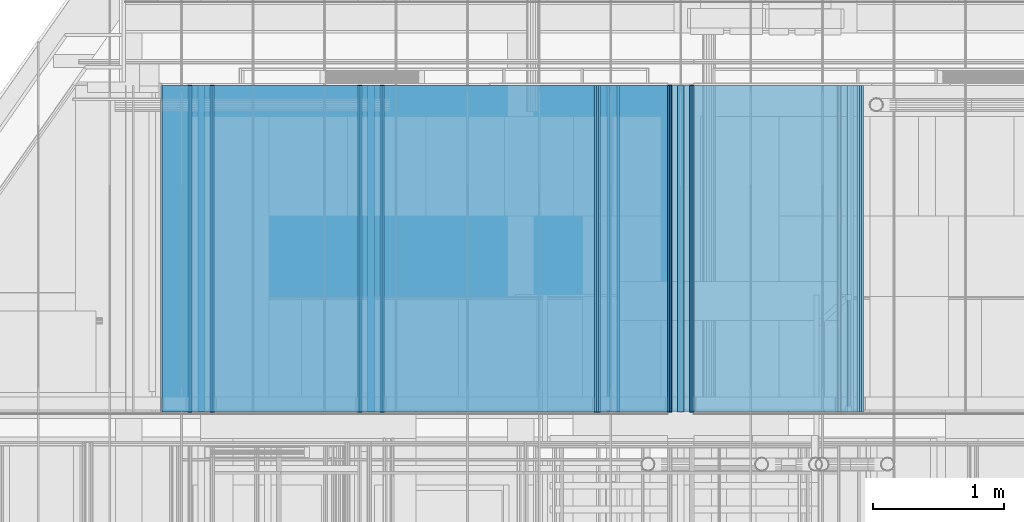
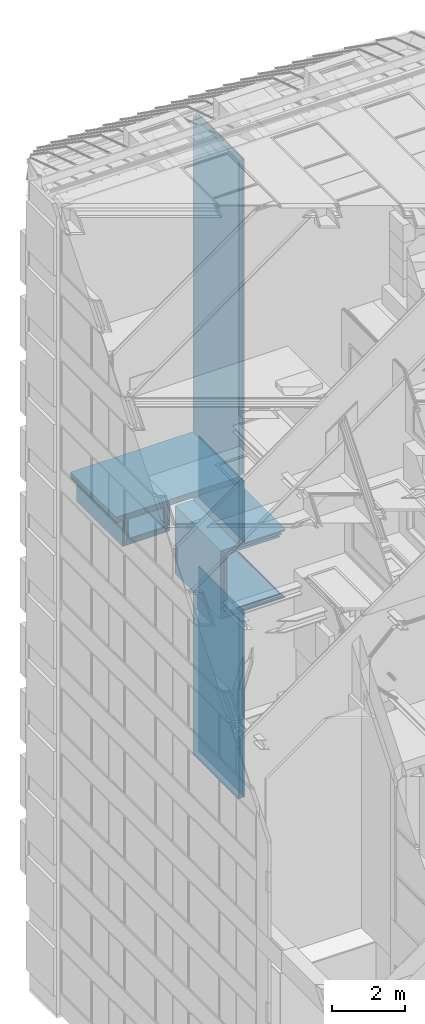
# One storey, part 155 of 583: 54 building element parts, 10 elements without a shape of their own.
"""IFC2X3 building model written with IfcOpenShell, lengths in metres."""

from ifc_helpers import new_model, entity, si_unit, converted_unit, derived_unit, money_unit, direction, frame, frame_2d, origin_with_axes, place, context, subcontext, project, spatial, polyline, rectangle, outline, extrude, material, type_object, element, aggregate, save


model = new_model("IFC2X3")

# Units and contexts
model_context = context("Model", 3, precision=1e-05, world=origin_with_axes(), true_north=direction((0.0, 1.0)))
body_context = subcontext(model_context, "Body", "Model", "MODEL_VIEW", scale=1.0)
ifc_project = project(units=[si_unit("LENGTHUNIT", "METRE"), si_unit("AREAUNIT", "SQUARE_METRE"), si_unit("VOLUMEUNIT", "CUBIC_METRE"), si_unit("ABSORBEDDOSEUNIT", "GRAY"), si_unit("AMOUNTOFSUBSTANCEUNIT", "MOLE"), si_unit("DOSEEQUIVALENTUNIT", "SIEVERT"), si_unit("ELECTRICCAPACITANCEUNIT", "FARAD"), si_unit("ELECTRICCHARGEUNIT", "COULOMB"), si_unit("ELECTRICCONDUCTANCEUNIT", "SIEMENS"), si_unit("ELECTRICCURRENTUNIT", "AMPERE"), si_unit("ELECTRICRESISTANCEUNIT", "OHM"), si_unit("ELECTRICVOLTAGEUNIT", "VOLT"), si_unit("ENERGYUNIT", "JOULE"), si_unit("FORCEUNIT", "NEWTON"), si_unit("FREQUENCYUNIT", "HERTZ"), si_unit("ILLUMINANCEUNIT", "LUX"), si_unit("INDUCTANCEUNIT", "HENRY"), si_unit("LUMINOUSFLUXUNIT", "LUMEN"), si_unit("LUMINOUSINTENSITYUNIT", "CANDELA"), si_unit("MAGNETICFLUXDENSITYUNIT", "TESLA"), si_unit("MAGNETICFLUXUNIT", "WEBER"), si_unit("MASSUNIT", "GRAM"), converted_unit("PLANEANGLEUNIT", "degree", entity("IfcReal", 0.0174532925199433), si_unit("PLANEANGLEUNIT", "RADIAN"), dimensions=[0, 0, 0, 0, 0, 0, 0]), si_unit("POWERUNIT", "WATT"), si_unit("PRESSUREUNIT", "PASCAL"), si_unit("RADIOACTIVITYUNIT", "BECQUEREL"), si_unit("SOLIDANGLEUNIT", "STERADIAN"), si_unit("THERMODYNAMICTEMPERATUREUNIT", "KELVIN"), si_unit("TIMEUNIT", "SECOND"), derived_unit("ACCELERATIONUNIT", [(si_unit("LENGTHUNIT", "METRE"), 1), (si_unit("TIMEUNIT", "SECOND"), -2)]), derived_unit("ANGULARVELOCITYUNIT", [(converted_unit("PLANEANGLEUNIT", "degree", entity("IfcReal", 0.0174532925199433), si_unit("PLANEANGLEUNIT", "RADIAN"), dimensions=[0, 0, 0, 0, 0, 0, 0]), 1), (si_unit("TIMEUNIT", "SECOND"), -1)]), derived_unit("CURVATUREUNIT", [(converted_unit("PLANEANGLEUNIT", "degree", entity("IfcReal", 0.0174532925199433), si_unit("PLANEANGLEUNIT", "RADIAN"), dimensions=[0, 0, 0, 0, 0, 0, 0]), 1), (si_unit("LENGTHUNIT", "METRE"), -1)]), derived_unit("DYNAMICVISCOSITYUNIT", [(si_unit("PRESSUREUNIT", "PASCAL"), 1), (si_unit("TIMEUNIT", "SECOND"), 1)]), derived_unit("HEATFLUXDENSITYUNIT", [(si_unit("POWERUNIT", "WATT"), 1), (si_unit("LENGTHUNIT", "METRE"), -2)]), derived_unit("HEATINGVALUEUNIT", [(si_unit("ENERGYUNIT", "JOULE"), 1), (si_unit("MASSUNIT", "GRAM"), -1)]), derived_unit("INTEGERCOUNTRATEUNIT", [(si_unit("TIMEUNIT", "SECOND"), -1)]), derived_unit("IONCONCENTRATIONUNIT", [(si_unit("MASSUNIT", "GRAM"), 1), (si_unit("VOLUMEUNIT", "CUBIC_METRE"), -1)]), derived_unit("ISOTHERMALMOISTURECAPACITYUNIT", [(si_unit("VOLUMEUNIT", "CUBIC_METRE"), 1), (si_unit("MASSUNIT", "GRAM"), -1)]), derived_unit("KINEMATICVISCOSITYUNIT", [(si_unit("AREAUNIT", "SQUARE_METRE"), 1), (si_unit("TIMEUNIT", "SECOND"), -1)]), derived_unit("LINEARFORCEUNIT", [(si_unit("FORCEUNIT", "NEWTON"), 1), (si_unit("LENGTHUNIT", "METRE"), -1)]), derived_unit("LINEARMOMENTUNIT", [(si_unit("FORCEUNIT", "NEWTON"), 1), (si_unit("LENGTHUNIT", "METRE"), -1)]), derived_unit("LINEARSTIFFNESSUNIT", [(si_unit("FORCEUNIT", "NEWTON"), 1), (si_unit("LENGTHUNIT", "METRE"), -1)]), derived_unit("LINEARVELOCITYUNIT", [(si_unit("LENGTHUNIT", "METRE"), 1), (si_unit("TIMEUNIT", "SECOND"), -1)]), derived_unit("LUMINOUSINTENSITYDISTRIBUTIONUNIT", [(si_unit("LUMINOUSINTENSITYUNIT", "CANDELA"), 1), (si_unit("LUMINOUSFLUXUNIT", "LUMEN"), -1)]), derived_unit("MASSDENSITYUNIT", [(si_unit("MASSUNIT", "GRAM"), 1), (si_unit("VOLUMEUNIT", "CUBIC_METRE"), -1)]), derived_unit("MASSFLOWRATEUNIT", [(si_unit("MASSUNIT", "GRAM"), 1), (si_unit("TIMEUNIT", "SECOND"), -1)]), derived_unit("MASSPERLENGTHUNIT", [(si_unit("MASSUNIT", "GRAM"), 1), (si_unit("LENGTHUNIT", "METRE"), -1)]), derived_unit("MODULUSOFELASTICITYUNIT", [(si_unit("FORCEUNIT", "NEWTON"), 1), (si_unit("AREAUNIT", "SQUARE_METRE"), -1)]), derived_unit("MODULUSOFLINEARSUBGRADEREACTIONUNIT", [(si_unit("FORCEUNIT", "NEWTON"), 1), (si_unit("LENGTHUNIT", "METRE"), -2)]), derived_unit("MODULUSOFROTATIONALSUBGRADEREACTIONUNIT", [(si_unit("FORCEUNIT", "NEWTON"), 1), (si_unit("LENGTHUNIT", "METRE"), 1)]), derived_unit("MODULUSOFSUBGRADEREACTIONUNIT", [(si_unit("FORCEUNIT", "NEWTON"), 1), (si_unit("VOLUMEUNIT", "CUBIC_METRE"), -1)]), derived_unit("MOISTUREDIFFUSIVITYUNIT", [(si_unit("VOLUMEUNIT", "CUBIC_METRE"), 1), (si_unit("TIMEUNIT", "SECOND"), -1)]), derived_unit("MOLECULARWEIGHTUNIT", [(si_unit("MASSUNIT", "GRAM"), 1), (si_unit("AMOUNTOFSUBSTANCEUNIT", "MOLE"), -1)]), derived_unit("PLANARFORCEUNIT", [(si_unit("FORCEUNIT", "NEWTON"), 1), (si_unit("LENGTHUNIT", "METRE"), -2)]), derived_unit("ROTATIONALFREQUENCYUNIT", [(si_unit("TIMEUNIT", "SECOND"), -1)]), derived_unit("ROTATIONALMASSUNIT", [(si_unit("MASSUNIT", "GRAM"), 1), (si_unit("LENGTHUNIT", "METRE"), 2)]), derived_unit("ROTATIONALSTIFFNESSUNIT", [(si_unit("FORCEUNIT", "NEWTON"), 1), (si_unit("LENGTHUNIT", "METRE"), 1), (converted_unit("PLANEANGLEUNIT", "degree", entity("IfcReal", 0.0174532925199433), si_unit("PLANEANGLEUNIT", "RADIAN"), dimensions=[0, 0, 0, 0, 0, 0, 0]), -1)]), derived_unit("SECTIONAREAINTEGRALUNIT", [(si_unit("LENGTHUNIT", "METRE"), 5)]), derived_unit("SECTIONMODULUSUNIT", [(si_unit("LENGTHUNIT", "METRE"), 3)]), derived_unit("SHEARMODULUSUNIT", [(si_unit("FORCEUNIT", "NEWTON"), 1), (si_unit("AREAUNIT", "SQUARE_METRE"), -1)]), derived_unit("SOUNDPOWERUNIT", [(si_unit("ENERGYUNIT", "JOULE"), 1), (si_unit("TIMEUNIT", "SECOND"), -1)]), derived_unit("SPECIFICHEATCAPACITYUNIT", [(si_unit("FORCEUNIT", "NEWTON"), 1), (si_unit("MASSUNIT", "GRAM"), -1), (si_unit("THERMODYNAMICTEMPERATUREUNIT", "KELVIN"), -1)]), derived_unit("TEMPERATUREGRADIENTUNIT", [(si_unit("THERMODYNAMICTEMPERATUREUNIT", "KELVIN"), 1), (si_unit("LENGTHUNIT", "METRE"), -1)]), derived_unit("THERMALADMITTANCEUNIT", [(si_unit("POWERUNIT", "WATT"), 1), (si_unit("AREAUNIT", "SQUARE_METRE"), -1), (si_unit("THERMODYNAMICTEMPERATUREUNIT", "KELVIN"), -1)]), derived_unit("THERMALCONDUCTANCEUNIT", [(si_unit("POWERUNIT", "WATT"), 1), (si_unit("LENGTHUNIT", "METRE"), -1), (si_unit("THERMODYNAMICTEMPERATUREUNIT", "KELVIN"), -1)]), derived_unit("THERMALEXPANSIONCOEFFICIENTUNIT", [(si_unit("THERMODYNAMICTEMPERATUREUNIT", "KELVIN"), -1)]), derived_unit("THERMALRESISTANCEUNIT", [(si_unit("AREAUNIT", "SQUARE_METRE"), 1), (si_unit("POWERUNIT", "WATT"), -1)]), derived_unit("THERMALTRANSMITTANCEUNIT", [(si_unit("POWERUNIT", "WATT"), 1), (si_unit("AREAUNIT", "SQUARE_METRE"), -1), (si_unit("THERMODYNAMICTEMPERATUREUNIT", "KELVIN"), -1)]), derived_unit("TORQUEUNIT", [(si_unit("FORCEUNIT", "NEWTON"), 1), (si_unit("LENGTHUNIT", "METRE"), 1)]), derived_unit("VAPORPERMEABILITYUNIT", [(si_unit("MASSUNIT", "GRAM"), 1), (si_unit("TIMEUNIT", "SECOND"), -1)]), derived_unit("VOLUMETRICFLOWRATEUNIT", [(si_unit("VOLUMEUNIT", "CUBIC_METRE"), 1), (si_unit("TIMEUNIT", "SECOND"), -1)]), derived_unit("WARPINGCONSTANTUNIT", [(si_unit("LENGTHUNIT", "METRE"), 6)]), derived_unit("WARPINGMOMENTUNIT", [(si_unit("FORCEUNIT", "NEWTON"), 1), (si_unit("LENGTHUNIT", "METRE"), 2)]), money_unit("GBP")], contexts=[model_context])

# Site, building, storey
site_placement = place(None, origin_with_axes())
site = spatial("IfcSite", under=ifc_project, at=site_placement, Name="Site", CompositionType="ELEMENT")
building_placement = place(site_placement, origin_with_axes())
building = spatial("IfcBuilding", under=site, at=building_placement, Name="Building01", CompositionType="ELEMENT")
storey_placement = place(building_placement, frame((0.0, 0.0, 20.78), z_axis=(0.0, 0.0, 1.0), x_axis=(1.0, 0.0, 0.0)))
storey = spatial("IfcBuildingStorey", under=building, at=storey_placement, Name="RL", CompositionType="ELEMENT", Elevation=20.78)

# Wall, building element parts
wall_type_1 = type_object("IfcWallType", Name="SHE_A-Walls_Type01d_Partywall_200mm_twin", PredefinedType="NOTDEFINED")
wall_1_placement = place(storey_placement, frame((5.105, 17.68, -8.155), z_axis=(0.0, 1.0, 0.0), x_axis=(-1.0, 0.0, 0.0)))
wall_1 = element("IfcWall", 1, at=wall_1_placement, inside=storey, type_object=wall_type_1, Name="1D", ObjectType="SHE_A-Walls_Type01d_Partywall_200mm_twin")
ifc_material_1 = material(Name="A_BSUK_Insulation")
placement_1 = place(wall_1_placement, origin_with_axes())
building_element_part_1 = element("IfcBuildingElementPart", 2, at=placement_1, material=ifc_material_1, Name="1", context=body_context, shape_type="SweptSolid", body=[
    extrude(outline(polyline([(1.3, 0.05), (0.05, 0.05), (0.0, 0.0), (1.35, 0.0), (1.3, 0.05)])), origin_with_axes(), (0.0, 0.0, 1.0), 2.5),
])
ifc_material_2 = material(Name="A_BSUK_WallInternal_Finishes_Plasterboard")
building_element_part_2 = element("IfcBuildingElementPart", 3, at=placement_1, material=ifc_material_2, Name="3", context=body_context, shape_type="SweptSolid", body=[
    extrude(outline(polyline([(1.225, 0.125), (0.125, 0.125), (0.11, 0.11), (1.24, 0.11), (1.225, 0.125)])), origin_with_axes(), (0.0, 0.0, 1.0), 2.5),
])
building_element_part_3 = element("IfcBuildingElementPart", 4, at=placement_1, material=ifc_material_2, Name="4", context=body_context, shape_type="SweptSolid", body=[
    extrude(outline(polyline([(1.24, 0.11), (0.11, 0.11), (0.095, 0.095), (1.255, 0.095), (1.24, 0.11)])), origin_with_axes(), (0.0, 0.0, 1.0), 2.5),
])
building_element_part_4 = element("IfcBuildingElementPart", 5, at=placement_1, material=ifc_material_2, Name="5", context=body_context, shape_type="SweptSolid", body=[
    extrude(outline(polyline([(1.395, -0.045), (-0.045, -0.045), (-0.06, -0.06), (1.41, -0.06), (1.395, -0.045)])), origin_with_axes(), (0.0, 0.0, 1.0), 2.5),
])
building_element_part_5 = element("IfcBuildingElementPart", 6, at=placement_1, material=ifc_material_2, Name="6", context=body_context, shape_type="SweptSolid", body=[
    extrude(outline(polyline([(1.41, -0.06), (-0.06, -0.06), (-0.075, -0.075), (1.425, -0.075), (1.41, -0.06)])), origin_with_axes(), (0.0, 0.0, 1.0), 2.5),
])
aggregate(wall_1, [building_element_part_1, building_element_part_2, building_element_part_3, building_element_part_4, building_element_part_5])

wall_2_placement = place(storey_placement, frame((7.424939, 17.68, -7.18), z_axis=(0.0, 1.0, 0.0), x_axis=(0.0, 0.0, 1.0)))
wall_2 = element("IfcWall", 7, at=wall_2_placement, inside=storey, type_object=wall_type_1, Name="1D", ObjectType="SHE_A-Walls_Type01d_Partywall_200mm_twin")
placement_2 = place(wall_2_placement, origin_with_axes())
building_element_part_6 = element("IfcBuildingElementPart", 8, at=placement_2, material=ifc_material_1, Name="1", context=body_context, shape_type="SweptSolid", body=[
    extrude(rectangle(XDim=0.05, YDim=10.561396, at=frame_2d((5.280698, 0.025), x_axis=(0.0, -1.0))), origin_with_axes(), (0.0, 0.0, 1.0), 2.5),
])
building_element_part_7 = element("IfcBuildingElementPart", 9, at=placement_2, material=ifc_material_2, Name="3", context=body_context, shape_type="SweptSolid", body=[
    extrude(rectangle(XDim=10.561396, YDim=0.015, at=frame_2d((5.280698, 0.1175), x_axis=(1.0, 0.0))), origin_with_axes(), (0.0, 0.0, 1.0), 2.5),
])
building_element_part_8 = element("IfcBuildingElementPart", 10, at=placement_2, material=ifc_material_2, Name="4", context=body_context, shape_type="SweptSolid", body=[
    extrude(rectangle(XDim=10.561396, YDim=0.015, at=frame_2d((5.280698, 0.1025), x_axis=(1.0, 0.0))), origin_with_axes(), (0.0, 0.0, 1.0), 2.5),
])
building_element_part_9 = element("IfcBuildingElementPart", 11, at=placement_2, material=ifc_material_2, Name="5", context=body_context, shape_type="SweptSolid", body=[
    extrude(rectangle(XDim=10.561396, YDim=0.015, at=frame_2d((5.280698, -0.0525), x_axis=(1.0, 0.0))), origin_with_axes(), (0.0, 0.0, 1.0), 2.5),
])
building_element_part_10 = element("IfcBuildingElementPart", 12, at=placement_2, material=ifc_material_2, Name="6", context=body_context, shape_type="SweptSolid", body=[
    extrude(rectangle(XDim=10.561396, YDim=0.015, at=frame_2d((5.280698, -0.0675), x_axis=(1.0, 0.0))), origin_with_axes(), (0.0, 0.0, 1.0), 2.5),
])
aggregate(wall_2, [building_element_part_6, building_element_part_7, building_element_part_8, building_element_part_9, building_element_part_10])

wall_3_placement = place(storey_placement, frame((5.105, 17.68, -7.305), z_axis=(0.0, 1.0, 0.0), x_axis=(0.0, 0.0, -1.0)))
wall_3 = element("IfcWall", 13, at=wall_3_placement, inside=storey, type_object=wall_type_1, Name="1D", ObjectType="SHE_A-Walls_Type01d_Partywall_200mm_twin")
placement_3 = place(wall_3_placement, origin_with_axes())
building_element_part_11 = element("IfcBuildingElementPart", 14, at=placement_3, material=ifc_material_1, Name="1", context=body_context, shape_type="SweptSolid", body=[
    extrude(outline(polyline([(0.8, 0.05), (0.0, 0.05), (0.0, 0.0), (0.85, 0.0), (0.8, 0.05)])), origin_with_axes(), (0.0, 0.0, 1.0), 2.5),
])
building_element_part_12 = element("IfcBuildingElementPart", 15, at=placement_3, material=ifc_material_2, Name="3", context=body_context, shape_type="SweptSolid", body=[
    extrude(outline(polyline([(0.725, 0.125), (0.075, 0.125), (0.075, 0.11), (0.74, 0.11), (0.725, 0.125)])), origin_with_axes(), (0.0, 0.0, 1.0), 2.5),
])
building_element_part_13 = element("IfcBuildingElementPart", 16, at=placement_3, material=ifc_material_2, Name="4", context=body_context, shape_type="SweptSolid", body=[
    extrude(outline(polyline([(0.74, 0.11), (0.045, 0.11), (0.045, 0.095), (0.755, 0.095), (0.74, 0.11)])), origin_with_axes(), (0.0, 0.0, 1.0), 2.5),
])
building_element_part_14 = element("IfcBuildingElementPart", 17, at=placement_3, material=ifc_material_2, Name="5", context=body_context, shape_type="SweptSolid", body=[
    extrude(outline(polyline([(0.895, -0.045), (0.045, -0.045), (0.045, -0.06), (0.91, -0.06), (0.895, -0.045)])), origin_with_axes(), (0.0, 0.0, 1.0), 2.5),
])
building_element_part_15 = element("IfcBuildingElementPart", 18, at=placement_3, material=ifc_material_2, Name="6", context=body_context, shape_type="SweptSolid", body=[
    extrude(outline(polyline([(0.91, -0.06), (0.075, -0.06), (0.075, -0.075), (0.925, -0.075), (0.91, -0.06)])), origin_with_axes(), (0.0, 0.0, 1.0), 2.5),
])
aggregate(wall_3, [building_element_part_11, building_element_part_12, building_element_part_13, building_element_part_14, building_element_part_15])

wall_4_placement = place(storey_placement, frame((3.755, 17.68, -8.155), z_axis=(0.0, 1.0, 0.0), x_axis=(0.0, 0.0, 1.0)))
wall_4 = element("IfcWall", 19, at=wall_4_placement, inside=storey, type_object=wall_type_1, Name="1D", ObjectType="SHE_A-Walls_Type01d_Partywall_200mm_twin")
placement_4 = place(wall_4_placement, origin_with_axes())
building_element_part_16 = element("IfcBuildingElementPart", 20, at=placement_4, material=ifc_material_1, Name="1", context=body_context, shape_type="SweptSolid", body=[
    extrude(outline(polyline([(0.85, 0.05), (0.05, 0.05), (0.0, 0.0), (0.85, 0.0), (0.85, 0.05)])), origin_with_axes(), (0.0, 0.0, 1.0), 2.5),
])
building_element_part_17 = element("IfcBuildingElementPart", 21, at=placement_4, material=ifc_material_2, Name="3", context=body_context, shape_type="SweptSolid", body=[
    extrude(outline(polyline([(0.775, 0.125), (0.125, 0.125), (0.11, 0.11), (0.775, 0.11), (0.775, 0.125)])), origin_with_axes(), (0.0, 0.0, 1.0), 2.5),
])
building_element_part_18 = element("IfcBuildingElementPart", 22, at=placement_4, material=ifc_material_2, Name="4", context=body_context, shape_type="SweptSolid", body=[
    extrude(outline(polyline([(0.79, 0.11), (0.11, 0.11), (0.095, 0.095), (0.79, 0.095), (0.79, 0.11)])), origin_with_axes(), (0.0, 0.0, 1.0), 2.5),
])
building_element_part_19 = element("IfcBuildingElementPart", 23, at=placement_4, material=ifc_material_2, Name="5", context=body_context, shape_type="SweptSolid", body=[
    extrude(outline(polyline([(0.79, -0.045), (-0.045, -0.045), (-0.06, -0.06), (0.79, -0.06), (0.79, -0.045)])), origin_with_axes(), (0.0, 0.0, 1.0), 2.5),
])
building_element_part_20 = element("IfcBuildingElementPart", 24, at=placement_4, material=ifc_material_2, Name="6", context=body_context, shape_type="SweptSolid", body=[
    extrude(outline(polyline([(0.775, -0.06), (-0.06, -0.06), (-0.075, -0.075), (0.775, -0.075), (0.775, -0.06)])), origin_with_axes(), (0.0, 0.0, 1.0), 2.5),
])
aggregate(wall_4, [building_element_part_16, building_element_part_17, building_element_part_18, building_element_part_19, building_element_part_20])

wall_type_2 = type_object("IfcWallType", Name="SHE_A-Walls_Type03b_Firewall_200mm_twin", PredefinedType="NOTDEFINED")
wall_5_placement = place(storey_placement, frame((7.474939, 17.68, -7.305), z_axis=(0.0, 1.0, 0.0), x_axis=(0.0, 0.0, -1.0)))
wall_5 = element("IfcWall", 25, at=wall_5_placement, inside=storey, type_object=wall_type_2, Name="3B", ObjectType="SHE_A-Walls_Type03b_Firewall_200mm_twin")
placement_5 = place(wall_5_placement, origin_with_axes())
building_element_part_21 = element("IfcBuildingElementPart", 26, at=placement_5, material=ifc_material_1, Name="1", context=body_context, shape_type="SweptSolid", body=[
    extrude(rectangle(XDim=2.152, YDim=0.05, at=frame_2d((1.076, 0.025), x_axis=(-1.0, 0.0))), origin_with_axes(), (0.0, 0.0, 1.0), 2.5),
])
building_element_part_22 = element("IfcBuildingElementPart", 27, at=placement_5, material=ifc_material_2, Name="3", context=body_context, shape_type="SweptSolid", body=[
    extrude(rectangle(XDim=2.262, YDim=0.015, at=frame_2d((1.021, 0.1175), x_axis=(-1.0, 0.0))), origin_with_axes(), (0.0, 0.0, 1.0), 2.5),
])
building_element_part_23 = element("IfcBuildingElementPart", 28, at=placement_5, material=ifc_material_2, Name="4", context=body_context, shape_type="SweptSolid", body=[
    extrude(rectangle(XDim=2.247, YDim=0.015, at=frame_2d((1.0285, 0.1025), x_axis=(-1.0, 0.0))), origin_with_axes(), (0.0, 0.0, 1.0), 2.5),
])
building_element_part_24 = element("IfcBuildingElementPart", 29, at=placement_5, material=ifc_material_2, Name="5", context=body_context, shape_type="SweptSolid", body=[
    extrude(rectangle(XDim=2.092, YDim=0.015, at=frame_2d((1.106, -0.0525), x_axis=(-1.0, 0.0))), origin_with_axes(), (0.0, 0.0, 1.0), 2.5),
])
building_element_part_25 = element("IfcBuildingElementPart", 30, at=placement_5, material=ifc_material_2, Name="6", context=body_context, shape_type="SweptSolid", body=[
    extrude(rectangle(XDim=2.077, YDim=0.015, at=frame_2d((1.1135, -0.0675), x_axis=(-1.0, 0.0))), origin_with_axes(), (0.0, 0.0, 1.0), 2.5),
])
aggregate(wall_5, [building_element_part_21, building_element_part_22, building_element_part_23, building_element_part_24, building_element_part_25])

wall_6_placement = place(storey_placement, frame((7.475, 17.68, -11.743), z_axis=(0.0, 1.0, 0.0), x_axis=(0.0, 0.0, -1.0)))
wall_6 = element("IfcWall", 31, at=wall_6_placement, inside=storey, type_object=wall_type_1, Name="1D", ObjectType="SHE_A-Walls_Type01d_Partywall_200mm_twin")
placement_6 = place(wall_6_placement, origin_with_axes())
building_element_part_26 = element("IfcBuildingElementPart", 32, at=placement_6, material=ifc_material_1, Name="1", context=body_context, shape_type="SweptSolid", body=[
    extrude(rectangle(XDim=0.05, YDim=6.218396, at=frame_2d((3.109198, 0.025), x_axis=(0.0, -1.0))), origin_with_axes(), (0.0, 0.0, 1.0), 2.5),
])
building_element_part_27 = element("IfcBuildingElementPart", 33, at=placement_6, material=ifc_material_2, Name="3", context=body_context, shape_type="SweptSolid", body=[
    extrude(rectangle(XDim=0.015, YDim=6.218396, at=frame_2d((3.109198, 0.1175), x_axis=(0.0, -1.0))), origin_with_axes(), (0.0, 0.0, 1.0), 2.5),
])
building_element_part_28 = element("IfcBuildingElementPart", 34, at=placement_6, material=ifc_material_2, Name="4", context=body_context, shape_type="SweptSolid", body=[
    extrude(rectangle(XDim=0.015, YDim=6.218396, at=frame_2d((3.109198, 0.1025), x_axis=(0.0, -1.0))), origin_with_axes(), (0.0, 0.0, 1.0), 2.5),
])
building_element_part_29 = element("IfcBuildingElementPart", 35, at=placement_6, material=ifc_material_2, Name="5", context=body_context, shape_type="SweptSolid", body=[
    extrude(rectangle(XDim=0.015, YDim=6.218396, at=frame_2d((3.109198, -0.0525), x_axis=(0.0, -1.0))), origin_with_axes(), (0.0, 0.0, 1.0), 2.5),
])
building_element_part_30 = element("IfcBuildingElementPart", 36, at=placement_6, material=ifc_material_2, Name="6", context=body_context, shape_type="SweptSolid", body=[
    extrude(rectangle(XDim=0.015, YDim=6.218396, at=frame_2d((3.109198, -0.0675), x_axis=(0.0, -1.0))), origin_with_axes(), (0.0, 0.0, 1.0), 2.5),
])
aggregate(wall_6, [building_element_part_26, building_element_part_27, building_element_part_28, building_element_part_29, building_element_part_30])

wall_7_placement = place(storey_placement, frame((7.349939, 17.68, -7.305), z_axis=(0.0, 1.0, 0.0), x_axis=(-1.0, 0.0, 0.0)))
wall_7 = element("IfcWall", 37, at=wall_7_placement, inside=storey, type_object=wall_type_1, Name="1D", ObjectType="SHE_A-Walls_Type01d_Partywall_200mm_twin")
placement_7 = place(wall_7_placement, origin_with_axes())
building_element_part_31 = element("IfcBuildingElementPart", 38, at=placement_7, material=ifc_material_1, Name="1", context=body_context, shape_type="SweptSolid", body=[
    extrude(rectangle(XDim=3.88, YDim=0.05, at=frame_2d((1.94, 0.025), x_axis=(-1.0, 0.0))), origin_with_axes(), (0.0, 0.0, 1.0), 2.5),
])
building_element_part_32 = element("IfcBuildingElementPart", 39, at=placement_7, material=ifc_material_2, Name="3", context=body_context, shape_type="SweptSolid", body=[
    extrude(rectangle(XDim=3.87, YDim=0.015, at=frame_2d((1.935, 0.1175), x_axis=(-1.0, 0.0))), origin_with_axes(), (0.0, 0.0, 1.0), 2.5),
])
building_element_part_33 = element("IfcBuildingElementPart", 40, at=placement_7, material=ifc_material_2, Name="4", context=body_context, shape_type="SweptSolid", body=[
    extrude(rectangle(XDim=3.87, YDim=0.015, at=frame_2d((1.935, 0.1025), x_axis=(-1.0, 0.0))), origin_with_axes(), (0.0, 0.0, 1.0), 2.5),
])
building_element_part_34 = element("IfcBuildingElementPart", 41, at=placement_7, material=ifc_material_2, Name="5", context=body_context, shape_type="SweptSolid", body=[
    extrude(rectangle(XDim=2.184939, YDim=0.015, at=frame_2d((1.09247, -0.0525), x_axis=(-1.0, 0.0))), origin_with_axes(), (0.0, 0.0, 1.0), 2.5),
])
building_element_part_35 = element("IfcBuildingElementPart", 42, at=placement_7, material=ifc_material_2, Name="6", context=body_context, shape_type="SweptSolid", body=[
    extrude(rectangle(XDim=2.184939, YDim=0.015, at=frame_2d((1.09247, -0.0675), x_axis=(-1.0, 0.0))), origin_with_axes(), (0.0, 0.0, 1.0), 2.5),
])
building_element_part_36 = element("IfcBuildingElementPart", 43, at=placement_7, material=ifc_material_2, Name="9", context=body_context, shape_type="SweptSolid", body=[
    extrude(rectangle(XDim=0.215061, YDim=0.015, at=frame_2d((3.76247, -0.0675), x_axis=(-1.0, 0.0))), origin_with_axes(), (0.0, 0.0, 1.0), 2.5),
])
building_element_part_37 = element("IfcBuildingElementPart", 44, at=placement_7, material=ifc_material_2, Name="10", context=body_context, shape_type="SweptSolid", body=[
    extrude(rectangle(XDim=0.230061, YDim=0.015, at=frame_2d((3.75497, -0.0525), x_axis=(-1.0, 0.0))), origin_with_axes(), (0.0, 0.0, 1.0), 2.5),
])
building_element_part_38 = element("IfcBuildingElementPart", 45, at=placement_7, material=ifc_material_2, Name="12", context=body_context, shape_type="SweptSolid", body=[
    extrude(rectangle(XDim=1.13, YDim=0.015, at=frame_2d((2.919939, -0.0675), x_axis=(-1.0, 0.0))), origin_with_axes(), (0.0, 0.0, 1.0), 2.5),
])
building_element_part_39 = element("IfcBuildingElementPart", 46, at=placement_7, material=ifc_material_2, Name="13", context=body_context, shape_type="SweptSolid", body=[
    extrude(rectangle(XDim=1.145, YDim=0.015, at=frame_2d((2.927439, -0.0525), x_axis=(-1.0, 0.0))), origin_with_axes(), (0.0, 0.0, 1.0), 2.5),
])
aggregate(wall_7, [building_element_part_31, building_element_part_32, building_element_part_33, building_element_part_34, building_element_part_35, building_element_part_36, building_element_part_37, building_element_part_38, building_element_part_39])

wall_type_3 = type_object("IfcWallType", Name="SHE_A-Walls_Type02c_LiftShaftWall_193mm", PredefinedType="NOTDEFINED")
wall_8_placement = place(storey_placement, frame((6.909769, 17.68, -11.623), z_axis=(0.0, 1.0, 0.0), x_axis=(1.0, 0.0, 0.0)))
wall_8 = element("IfcWall", 47, at=wall_8_placement, inside=storey, type_object=wall_type_3, Name="2C", ObjectType="SHE_A-Walls_Type02c_LiftShaftWall_193mm")
placement_8 = place(wall_8_placement, origin_with_axes())
building_element_part_40 = element("IfcBuildingElementPart", 48, at=placement_8, material=ifc_material_1, Name="1", context=body_context, shape_type="SweptSolid", body=[
    extrude(rectangle(XDim=1.817584, YDim=0.025, at=frame_2d((0.908792, 0.0125), x_axis=(-1.0, 0.0))), origin_with_axes(), (0.0, 0.0, 1.0), 2.5),
])
building_element_part_41 = element("IfcBuildingElementPart", 49, at=placement_8, material=ifc_material_2, Name="2", context=body_context, shape_type="SweptSolid", body=[
    extrude(outline(polyline([(1.763584, -0.054), (0.054, -0.054), (0.073, -0.073), (1.744584, -0.073), (1.763584, -0.054)])), origin_with_axes(), (0.0, 0.0, 1.0), 2.5),
])
building_element_part_42 = element("IfcBuildingElementPart", 50, at=placement_8, material=ifc_material_2, Name="4", context=body_context, shape_type="SweptSolid", body=[
    extrude(outline(polyline([(1.937584, 0.12), (-0.12, 0.12), (-0.105, 0.105), (1.922584, 0.105), (1.937584, 0.12)])), origin_with_axes(), (0.0, 0.0, 1.0), 2.5),
])
building_element_part_43 = element("IfcBuildingElementPart", 51, at=placement_8, material=ifc_material_2, Name="5", context=body_context, shape_type="SweptSolid", body=[
    extrude(outline(polyline([(1.922584, 0.105), (-0.105, 0.105), (-0.09, 0.09), (1.907584, 0.09), (1.922584, 0.105)])), origin_with_axes(), (0.0, 0.0, 1.0), 2.5),
])
building_element_part_44 = element("IfcBuildingElementPart", 52, at=placement_8, material=ifc_material_2, Name="6", context=body_context, shape_type="SweptSolid", body=[
    extrude(outline(polyline([(1.907584, 0.09), (-0.09, 0.09), (-0.075, 0.075), (1.892584, 0.075), (1.907584, 0.09)])), origin_with_axes(), (0.0, 0.0, 1.0), 2.5),
])
aggregate(wall_8, [building_element_part_40, building_element_part_41, building_element_part_42, building_element_part_43, building_element_part_44])

wall_9_placement = place(storey_placement, frame((6.909769, 17.68, -9.552), z_axis=(0.0, 1.0, 0.0), x_axis=(0.0, 0.0, -1.0)))
wall_9 = element("IfcWall", 53, at=wall_9_placement, inside=storey, type_object=wall_type_3, Name="2C", ObjectType="SHE_A-Walls_Type02c_LiftShaftWall_193mm")
placement_9 = place(wall_9_placement, origin_with_axes())
building_element_part_45 = element("IfcBuildingElementPart", 54, at=placement_9, material=ifc_material_1, Name="1", context=body_context, shape_type="SweptSolid", body=[
    extrude(rectangle(XDim=2.096, YDim=0.025, at=frame_2d((1.048, 0.0125), x_axis=(-1.0, 0.0))), origin_with_axes(), (0.0, 0.0, 1.0), 2.5),
])
building_element_part_46 = element("IfcBuildingElementPart", 55, at=placement_9, material=ifc_material_2, Name="2", context=body_context, shape_type="SweptSolid", body=[
    extrude(outline(polyline([(2.017, -0.054), (0.079, -0.054), (0.098, -0.073), (1.998, -0.073), (2.017, -0.054)])), origin_with_axes(), (0.0, 0.0, 1.0), 2.5),
])
building_element_part_47 = element("IfcBuildingElementPart", 56, at=placement_9, material=ifc_material_2, Name="4", context=body_context, shape_type="SweptSolid", body=[
    extrude(outline(polyline([(2.191, 0.12), (-0.095, 0.12), (-0.08, 0.105), (2.176, 0.105), (2.191, 0.12)])), origin_with_axes(), (0.0, 0.0, 1.0), 2.5),
])
building_element_part_48 = element("IfcBuildingElementPart", 57, at=placement_9, material=ifc_material_2, Name="5", context=body_context, shape_type="SweptSolid", body=[
    extrude(outline(polyline([(2.176, 0.105), (-0.08, 0.105), (-0.065, 0.09), (2.161, 0.09), (2.176, 0.105)])), origin_with_axes(), (0.0, 0.0, 1.0), 2.5),
])
building_element_part_49 = element("IfcBuildingElementPart", 58, at=placement_9, material=ifc_material_2, Name="6", context=body_context, shape_type="SweptSolid", body=[
    extrude(outline(polyline([(2.161, 0.09), (-0.065, 0.09), (-0.05, 0.075), (2.146, 0.075), (2.161, 0.09)])), origin_with_axes(), (0.0, 0.0, 1.0), 2.5),
])
aggregate(wall_9, [building_element_part_45, building_element_part_46, building_element_part_47, building_element_part_48, building_element_part_49])

wall_10_placement = place(storey_placement, frame((6.909769, 17.68, -9.577), z_axis=(0.0, 1.0, 0.0), x_axis=(1.0, 0.0, 0.0)))
wall_10 = element("IfcWall", 59, at=wall_10_placement, inside=storey, type_object=wall_type_3, Name="2C", ObjectType="SHE_A-Walls_Type02c_LiftShaftWall_193mm")
placement_10 = place(wall_10_placement, origin_with_axes())
building_element_part_50 = element("IfcBuildingElementPart", 60, at=placement_10, material=ifc_material_1, Name="1", context=body_context, shape_type="SweptSolid", body=[
    extrude(rectangle(XDim=1.817584, YDim=0.025, at=frame_2d((0.908792, -0.0125), x_axis=(-1.0, 0.0))), origin_with_axes(), (0.0, 0.0, 1.0), 2.5),
])
building_element_part_51 = element("IfcBuildingElementPart", 61, at=placement_10, material=ifc_material_2, Name="2", context=body_context, shape_type="SweptSolid", body=[
    extrude(outline(polyline([(1.744584, 0.073), (0.073, 0.073), (0.054, 0.054), (1.763584, 0.054), (1.744584, 0.073)])), origin_with_axes(), (0.0, 0.0, 1.0), 2.5),
])
building_element_part_52 = element("IfcBuildingElementPart", 62, at=placement_10, material=ifc_material_2, Name="4", context=body_context, shape_type="SweptSolid", body=[
    extrude(outline(polyline([(1.922584, -0.105), (-0.105, -0.105), (-0.12, -0.12), (1.937584, -0.12), (1.922584, -0.105)])), origin_with_axes(), (0.0, 0.0, 1.0), 2.5),
])
building_element_part_53 = element("IfcBuildingElementPart", 63, at=placement_10, material=ifc_material_2, Name="5", context=body_context, shape_type="SweptSolid", body=[
    extrude(outline(polyline([(1.907584, -0.09), (-0.09, -0.09), (-0.105, -0.105), (1.922584, -0.105), (1.907584, -0.09)])), origin_with_axes(), (0.0, 0.0, 1.0), 2.5),
])
building_element_part_54 = element("IfcBuildingElementPart", 64, at=placement_10, material=ifc_material_2, Name="6", context=body_context, shape_type="SweptSolid", body=[
    extrude(outline(polyline([(1.892584, -0.075), (-0.075, -0.075), (-0.09, -0.09), (1.907584, -0.09), (1.892584, -0.075)])), origin_with_axes(), (0.0, 0.0, 1.0), 2.5),
])
aggregate(wall_10, [building_element_part_50, building_element_part_51, building_element_part_52, building_element_part_53, building_element_part_54])

save(model, "model.ifc")
